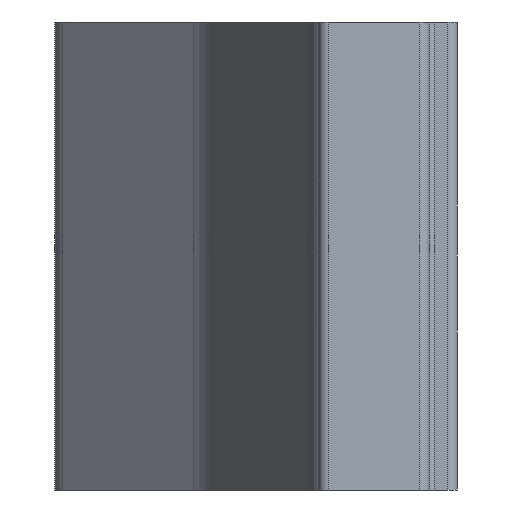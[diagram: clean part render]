
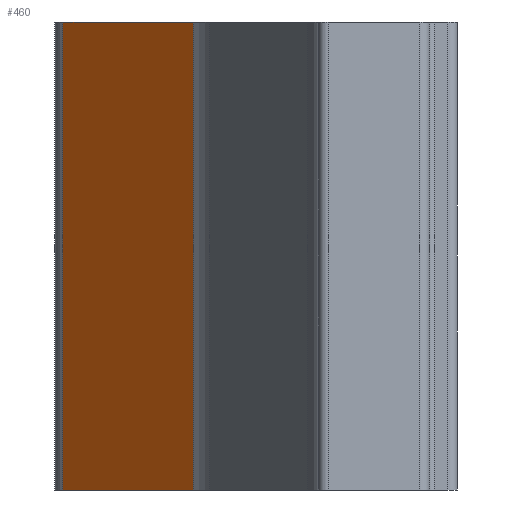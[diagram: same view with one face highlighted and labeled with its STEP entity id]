
A CAD part, front view. The second image highlights one B-rep face of the part: STEP entity #460.
In plain terms, the highlighted planar face has unit normal (-0.707, -0.707, 0).
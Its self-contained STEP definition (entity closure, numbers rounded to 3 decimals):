
#3 = CARTESIAN_POINT ( 'NONE',  ( -1.18, 139.672, 111.9 ) ) ;
#10 = LINE ( 'NONE', #1573, #611 ) ;
#32 = LINE ( 'NONE', #905, #358 ) ;
#69 = VERTEX_POINT ( 'NONE', #1345 ) ;
#91 = ORIENTED_EDGE ( 'NONE', *, *, #470, .T. ) ;
#142 = EDGE_CURVE ( 'NONE', #242, #1039, #1227, .T. ) ;
#159 = DIRECTION ( 'NONE',  ( 0., 0., 1. ) ) ;
#186 = ORIENTED_EDGE ( 'NONE', *, *, #1236, .T. ) ;
#217 = CARTESIAN_POINT ( 'NONE',  ( -1.706, 140.198, 111.9 ) ) ;
#242 = VERTEX_POINT ( 'NONE', #899 ) ;
#257 = CARTESIAN_POINT ( 'NONE',  ( -8.661, 147.152, 111.9 ) ) ;
#296 = DIRECTION ( 'NONE',  ( 0.707, -0.707, 0. ) ) ;
#307 = AXIS2_PLACEMENT_3D ( 'NONE', #3, #392, #1120 ) ;
#358 = VECTOR ( 'NONE', #296, 1000. ) ;
#377 = LINE ( 'NONE', #1108, #700 ) ;
#392 = DIRECTION ( 'NONE',  ( 0.707, 0.707, 0. ) ) ;
#460 = ADVANCED_FACE ( 'NONE', ( #1046 ), #1097, .F. ) ;
#470 = EDGE_CURVE ( 'NONE', #853, #69, #377, .T. ) ;
#483 = VECTOR ( 'NONE', #490, 1000. ) ;
#490 = DIRECTION ( 'NONE',  ( 0., 0., -1. ) ) ;
#589 = EDGE_LOOP ( 'NONE', ( #186, #91, #590, #1258 ) ) ;
#590 = ORIENTED_EDGE ( 'NONE', *, *, #996, .T. ) ;
#611 = VECTOR ( 'NONE', #713, 1000. ) ;
#700 = VECTOR ( 'NONE', #159, 1000. ) ;
#713 = DIRECTION ( 'NONE',  ( -0.707, 0.707, 0. ) ) ;
#853 = VERTEX_POINT ( 'NONE', #217 ) ;
#899 = CARTESIAN_POINT ( 'NONE',  ( -8.661, 147.152, 136.9 ) ) ;
#905 = CARTESIAN_POINT ( 'NONE',  ( -5.654, 144.146, 111.9 ) ) ;
#996 = EDGE_CURVE ( 'NONE', #69, #242, #10, .T. ) ;
#1039 = VERTEX_POINT ( 'NONE', #1095 ) ;
#1046 = FACE_OUTER_BOUND ( 'NONE', #589, .T. ) ;
#1095 = CARTESIAN_POINT ( 'NONE',  ( -8.661, 147.152, 111.9 ) ) ;
#1097 = PLANE ( 'NONE',  #307 ) ;
#1108 = CARTESIAN_POINT ( 'NONE',  ( -1.706, 140.198, 136.9 ) ) ;
#1120 = DIRECTION ( 'NONE',  ( -0.707, 0.707, 0. ) ) ;
#1227 = LINE ( 'NONE', #257, #483 ) ;
#1236 = EDGE_CURVE ( 'NONE', #1039, #853, #32, .T. ) ;
#1258 = ORIENTED_EDGE ( 'NONE', *, *, #142, .T. ) ;
#1345 = CARTESIAN_POINT ( 'NONE',  ( -1.706, 140.198, 136.9 ) ) ;
#1573 = CARTESIAN_POINT ( 'NONE',  ( -1.18, 139.672, 136.9 ) ) ;
